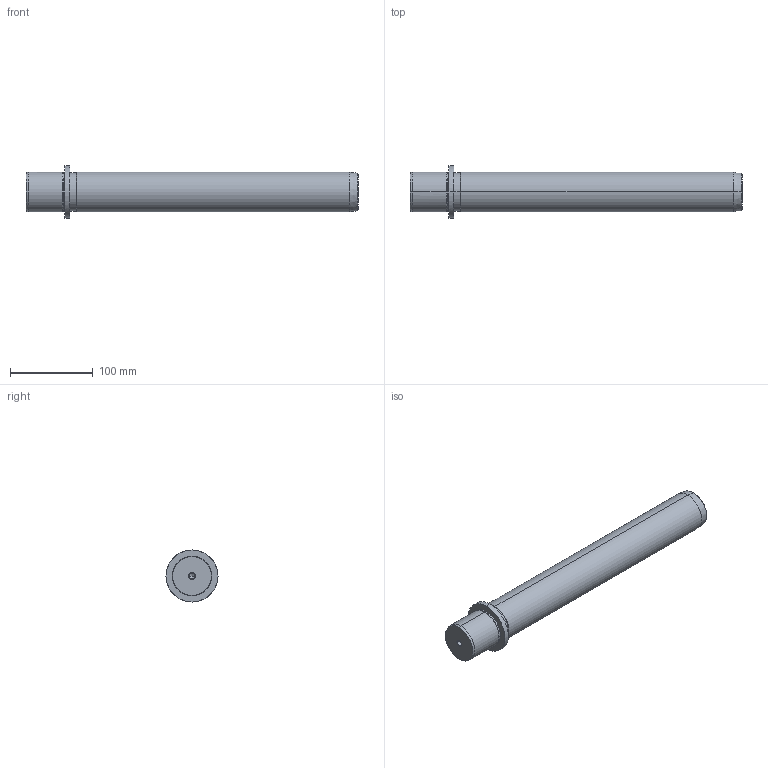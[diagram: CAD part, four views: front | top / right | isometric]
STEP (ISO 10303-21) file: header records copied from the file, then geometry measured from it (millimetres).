
FILE_DESCRIPTION(('CATIA V5 STEP Exchange'),'2;1');
FILE_NAME('C:\Users\Utente\Desktop\IO LAVORO\3D X SITO CF\X SITO\719\719-48x355.stp','2021-01-03T15:14:05+00:00',('none'),('none'),'CATIA Version 5 Release 20 GA (IN-10)','CATIA V5 STEP AP203','none');
FILE_SCHEMA(('CONFIG_CONTROL_DESIGN'));
Length unit declared in the file: millimetre
Products named in the file (1): 719-48x355
Bounding box: 402 x 63 x 63 mm (x, y, z)
Volume: 731510 mm3; surface area: 67945.9 mm2
Topology: 1 solids, 1 shells, 36 faces, 100 edges, 66 vertices
Faces by surface type: cone 16, cylinder 14, plane 4, torus 2
Entity records: 1270 total; most frequent: CARTESIAN_POINT 339, ORIENTED_EDGE 192, DIRECTION 158, EDGE_CURVE 96, AXIS2_PLACEMENT_3D 93, VERTEX_POINT 66, CIRCLE 56, EDGE_LOOP 40
